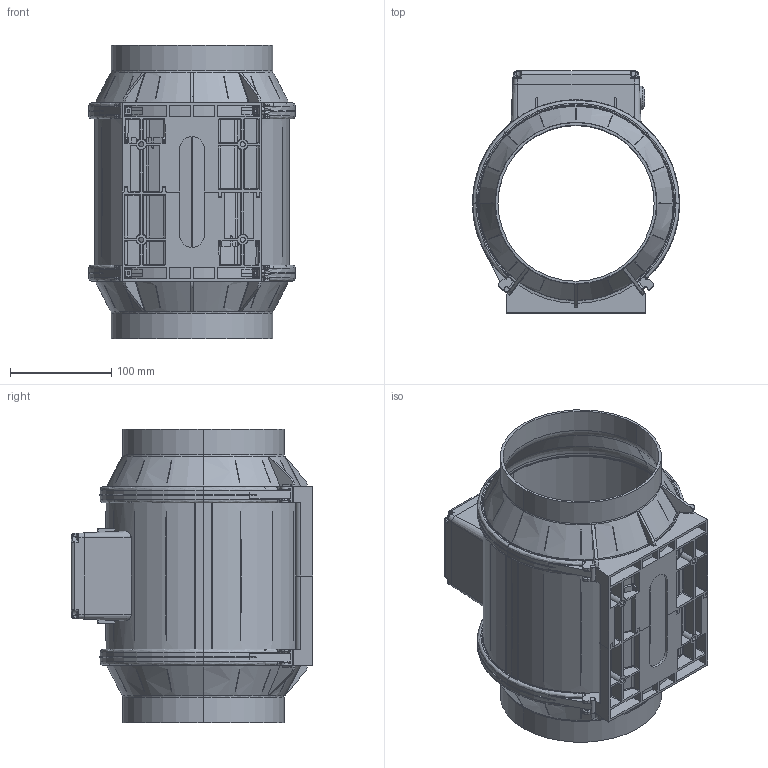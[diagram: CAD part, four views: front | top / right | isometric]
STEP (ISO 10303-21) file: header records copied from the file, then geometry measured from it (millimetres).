
FILE_DESCRIPTION (( 'STEP AP203' ), '1' );
FILE_NAME ('126549-02_EM160E2M01.STEP', '2013-10-24T13:07:00', ( '' ), ( '' ), 'SwSTEP 2.0', 'SolidWorks 2012', '' );
FILE_SCHEMA (( 'CONFIG_CONTROL_DESIGN' ));
Length unit declared in the file: millimetre
Products named in the file (1): 126549-02_EM160E2M01
Bounding box: 204 x 238.55 x 289 mm (x, y, z)
Surface area: 479307.8 mm2 (no closed solid volume)
Topology: 0 solids, 36 shells, 1334 faces, 5055 edges, 3597 vertices
Faces by surface type: plane 497, cylinder 418, torus 178, bspline 157, cone 74, sphere 10
Entity records: 74867 total; most frequent: CARTESIAN_POINT 36320, ORIENTED_EDGE 7658, DIRECTION 7289, EDGE_CURVE 5051, VERTEX_POINT 3597, AXIS2_PLACEMENT_3D 2655, LINE 1979, VECTOR 1979
